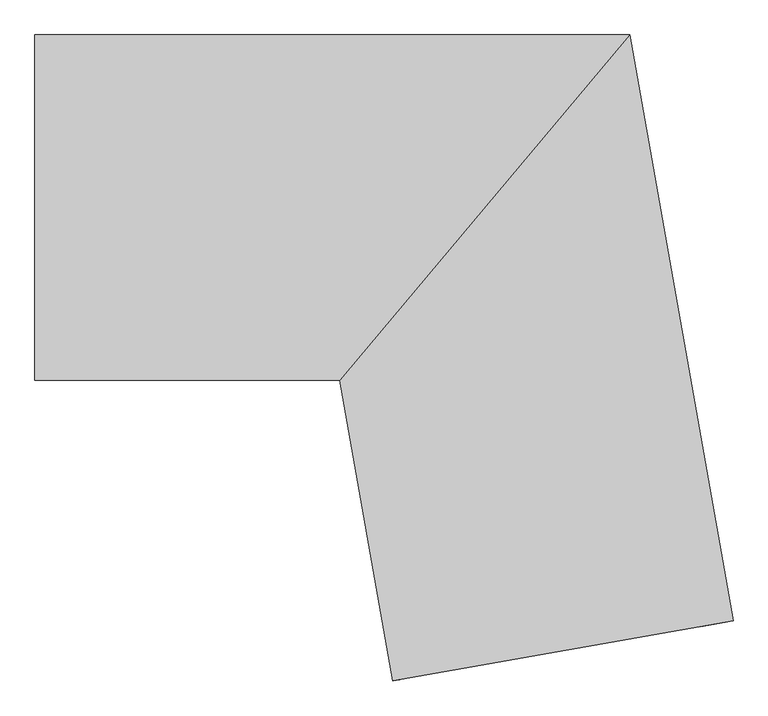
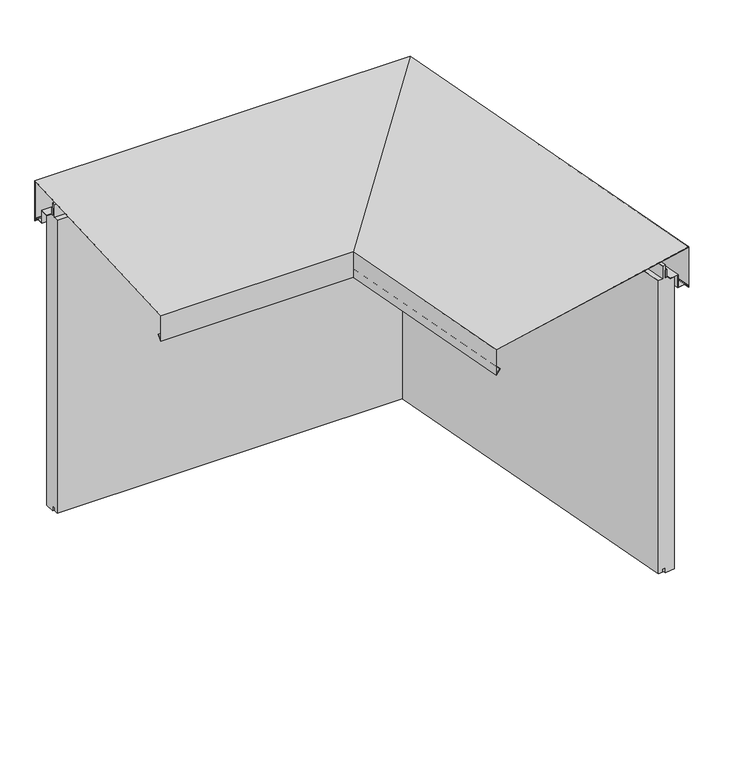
"""IFC4 building model written with IfcOpenShell, lengths in millimetres: plate geometry, Trimo_Qbiss Screen_L Corner Panel-HORIZONTAL : HR - B."""

import ifcopenshell
import ifcopenshell.guid

model = None  # the IFC model being written
_history = None  # IfcOwnerHistory: only IFC2X3 demands one
_inside = {}  # id of a spatial element -> (the spatial element, [elements in it])
_under = {}  # id of a project, library or spatial element -> (it, [spatial elements below it])
_declared = {}  # id of a project -> (the project, [libraries it declares])
_typed = {}  # id of a type object -> (the type object, [elements of that type])
_made_of = {}  # id of a material, layer set ... -> (it, [elements and type objects made of it])


def new_model(schema):
    """Start an empty IFC model of exactly this schema.

    Asked for "IFC4X3", IfcOpenShell would pick the latest addendum, in which some entities
    have other attributes; the version numbers below select the first issue.
    IFC2X3 requires an IfcOwnerHistory on every rooted entity: one is made here for all.
    """
    global model, _history
    if schema == "IFC4X3":
        model = ifcopenshell.file(schema_version=(4, 3, 0, 0))
    else:
        model = ifcopenshell.file(schema=schema)
    _inside.clear()
    _under.clear()
    _declared.clear()
    _typed.clear()
    _made_of.clear()
    _history = None
    if model.schema == "IFC2X3":
        org = make("IfcOrganization", Name="unknown")
        user = make(
            "IfcPersonAndOrganization",
            ThePerson=make("IfcPerson", FamilyName="unknown"),
            TheOrganization=org,
        )
        app = make(
            "IfcApplication",
            ApplicationDeveloper=org,
            Version="unknown",
            ApplicationFullName="unknown",
            ApplicationIdentifier="unknown",
        )
        _history = make(
            "IfcOwnerHistory",
            OwningUser=user,
            OwningApplication=app,
            ChangeAction="ADDED",
            CreationDate=0,
        )
    return model


def make(cls, **values):
    """One entity of the class cls with the attributes given. An attribute that is None is left unset."""
    return model.create_entity(
        cls, **{name: value for name, value in values.items() if value is not None}
    )


def rooted(cls, **values):
    """An entity with a GlobalId (a new one), such as an element, a storey or a relation."""
    return make(cls, GlobalId=ifcopenshell.guid.new(), OwnerHistory=_history, **values)


def si_unit(unit_type, name, prefix=None):
    """IfcSIUnit, for example si_unit("LENGTHUNIT", "METRE", prefix="MILLI")."""
    return make("IfcSIUnit", UnitType=unit_type, Prefix=prefix, Name=name)


def assignment(units):
    """IfcUnitAssignment: the units of a project."""
    return None if units is None else make("IfcUnitAssignment", Units=units)


def point(xyz):
    """IfcCartesianPoint."""
    return None if xyz is None else make("IfcCartesianPoint", Coordinates=xyz)


def direction(xyz):
    """IfcDirection."""
    return None if xyz is None else make("IfcDirection", DirectionRatios=xyz)


def frame(location, z_axis=None, x_axis=None):
    """IfcAxis2Placement3D, a coordinate frame: its origin and axes. An axis left out is left unset."""
    return make(
        "IfcAxis2Placement3D",
        Location=point(location),
        Axis=direction(z_axis),
        RefDirection=direction(x_axis),
    )


def origin():
    """The frame at (0, 0, 0) with its axes left unset."""
    return frame((0.0, 0.0, 0.0))


def place(relative_to, where):
    """IfcLocalPlacement: puts the frame where relative to a parent placement (None: the world)."""
    return make(
        "IfcLocalPlacement", PlacementRelTo=relative_to, RelativePlacement=where
    )


def context(
    kind, dimensions, precision=None, world=None, true_north=None, identifier=None
):
    """IfcGeometricRepresentationContext, for example the 3D "Model" context."""
    return make(
        "IfcGeometricRepresentationContext",
        ContextIdentifier=identifier,
        ContextType=kind,
        CoordinateSpaceDimension=dimensions,
        Precision=precision,
        WorldCoordinateSystem=world,
        TrueNorth=true_north,
    )


def project(units=None, contexts=None):
    """IfcProject with its units and contexts."""
    return rooted(
        "IfcProject",
        Name="project",
        RepresentationContexts=contexts,
        UnitsInContext=assignment(units),
    )


def spatial(cls, under=None, at=None, **own):
    """A site, building, storey or space (cls), placed at a placement, below another one or the project."""
    s = rooted(cls, ObjectPlacement=at, **own)
    if under is not None:
        _under.setdefault(under.id(), (under, []))[1].append(s)
    return s


def polyline(points):
    """IfcPolyline through the points."""
    return make("IfcPolyline", Points=[point(p) for p in points])


def outline(outer, holes=None, kind="AREA"):
    """IfcArbitraryClosedProfileDef: a profile drawn as a closed curve; with holes, ...WithVoids."""
    if holes is None:
        return make("IfcArbitraryClosedProfileDef", ProfileType=kind, OuterCurve=outer)
    return make(
        "IfcArbitraryProfileDefWithVoids",
        ProfileType=kind,
        OuterCurve=outer,
        InnerCurves=holes,
    )


def extrude(swept, where, along, depth):
    """IfcExtrudedAreaSolid: the profile swept, set in the frame where, extruded along a direction by depth."""
    return make(
        "IfcExtrudedAreaSolid",
        SweptArea=swept,
        Position=where,
        ExtrudedDirection=direction(along),
        Depth=depth,
    )


def faces_of(points, faces, orient=None, outer=None):
    """IfcFace entities. A face is a list of loops; a loop is a list of indices into points, from 0.

    orient and outer hold one flag for each loop. By default every Orientation is true, the
    first loop of a face is its IfcFaceOuterBound and the others are IfcFaceBound.
    """
    made = []
    for i, loops in enumerate(faces):
        bounds = []
        for j, loop in enumerate(loops):
            is_outer = j == 0 if outer is None else outer[i][j]
            bounds.append(
                make(
                    "IfcFaceOuterBound" if is_outer else "IfcFaceBound",
                    Bound=make("IfcPolyLoop", Polygon=[points[k] for k in loop]),
                    Orientation=True if orient is None else orient[i][j],
                )
            )
        made.append(make("IfcFace", Bounds=bounds))
    return made


def faceted_brep(points, faces, orient=None, outer=None, voids=None):
    """IfcFacetedBrep: a solid bounded by flat faces; with voids (closed shells), ...WithVoids."""
    shared = [point(p) for p in points]
    hull = make("IfcClosedShell", CfsFaces=faces_of(shared, faces, orient, outer))
    if voids is None:
        return make("IfcFacetedBrep", Outer=hull)
    return make(
        "IfcFacetedBrepWithVoids",
        Outer=hull,
        Voids=[
            make(cls, CfsFaces=faces_of(shared, fs, o, b)) for cls, fs, o, b in voids
        ],
    )


def shape(context_of_items, identifier, shape_type, items):
    """IfcShapeRepresentation: the items that make up one representation, for example the "Body"."""
    return make(
        "IfcShapeRepresentation",
        ContextOfItems=context_of_items,
        RepresentationIdentifier=identifier,
        RepresentationType=shape_type,
        Items=items,
    )


def source(mapping_origin, context_of_items, identifier, shape_type, items):
    """IfcRepresentationMap: a shape defined once, which mapped items show again and again."""
    return make(
        "IfcRepresentationMap",
        MappingOrigin=mapping_origin,
        MappedRepresentation=shape(context_of_items, identifier, shape_type, items),
    )


def transform(
    local_origin,
    x_axis=None,
    y_axis=None,
    z_axis=None,
    scale=None,
    scale2=None,
    scale3=None,
    uniform=True,
):
    """IfcCartesianTransformationOperator3D, or its non-uniform kind. x_axis, y_axis, z_axis: its Axis1, 2, 3."""
    if uniform:
        return make(
            "IfcCartesianTransformationOperator3D",
            Axis1=direction(x_axis),
            Axis2=direction(y_axis),
            LocalOrigin=point(local_origin),
            Scale=scale,
            Axis3=direction(z_axis),
        )
    return make(
        "IfcCartesianTransformationOperator3DnonUniform",
        Axis1=direction(x_axis),
        Axis2=direction(y_axis),
        LocalOrigin=point(local_origin),
        Scale=scale,
        Axis3=direction(z_axis),
        Scale2=scale2,
        Scale3=scale3,
    )


def mapped(mapping_source, mapping_target):
    """IfcMappedItem: shows the shape of a source again, moved by a transform."""
    return make(
        "IfcMappedItem", MappingSource=mapping_source, MappingTarget=mapping_target
    )


def made_of(thing, what):
    """Note that an element or type object is made of a material, layer set ...; save() writes the relation."""
    if what is not None:
        _made_of.setdefault(what.id(), (what, []))[1].append(thing)
    return thing


def element(
    cls,
    number,
    at=None,
    inside=None,
    cuts=None,
    type_object=None,
    material=None,
    context=None,
    identifier="Body",
    shape_type=None,
    held_by="IfcProductDefinitionShape",
    body=None,
    shapes=None,
    **own,
):
    """One element of the class cls, such as IfcWall. Its Tag is "e" and its number.

    at: its placement. inside: the storey or other place that contains it. cuts: it is an
    opening in that element (IfcRelVoidsElement). A single representation is given by context,
    identifier, shape_type and body (its items); several are given by shapes. held_by: the class
    of the entity that holds the representations. save() writes the other relations.
    """
    e = rooted(cls, Tag="e%d" % number, ObjectPlacement=at, **own)
    if body is not None:
        shapes = [shape(context, identifier, shape_type, body)]
    if shapes is not None:
        e.Representation = make(held_by, Representations=shapes)
    if inside is not None:
        _inside.setdefault(inside.id(), (inside, []))[1].append(e)
    if cuts is not None:
        rooted(
            "IfcRelVoidsElement", RelatingBuildingElement=cuts, RelatedOpeningElement=e
        )
    if type_object is not None:
        _typed.setdefault(type_object.id(), (type_object, []))[1].append(e)
    return made_of(e, material)


def aggregate(whole, parts):
    """IfcRelAggregates: a whole, such as a stair, and the parts it consists of."""
    return rooted("IfcRelAggregates", RelatingObject=whole, RelatedObjects=parts)


def save(model, path):
    """Write the relations noted so far, then the file.

    IfcRelAggregates (storeys below a building ...), IfcRelContainedInSpatialStructure (elements
    in a storey), IfcRelDefinesByType, IfcRelAssociatesMaterial and IfcRelDeclares: one each for
    every whole, place, type object, material and project.
    """
    for whole, parts in _under.values():
        aggregate(whole, parts)
    for where, things in _inside.values():
        rooted(
            "IfcRelContainedInSpatialStructure",
            RelatedElements=things,
            RelatingStructure=where,
        )
    for kind, things in _typed.values():
        rooted("IfcRelDefinesByType", RelatedObjects=things, RelatingType=kind)
    for what, things in _made_of.values():
        rooted("IfcRelAssociatesMaterial", RelatedObjects=things, RelatingMaterial=what)
    for by, libraries in _declared.values():
        rooted("IfcRelDeclares", RelatingContext=by, RelatedDefinitions=libraries)
    model.write(path)


def plate_30a3f86a(model_context):
    return source(origin(), model_context, "Body", "SolidModel", [
        faceted_brep([(576.9021889, 134.2, 818.9715729), (576.9021889, 134.2, 934.1569759), (-464.2950184, 134.2, 934.1569759), (-464.2950184, 134.2, 818.9715729), (70.5894715, -469.2, 905.4165497), (-464.2950184, -469.2, 905.4165497), (70.5894715, -469.2, 833.1070922), (-464.2950184, -469.2, 833.1070922), (80.2921876, -457.6367532, 844.670339), (-464.2950184, -457.6367532, 844.670339), (80.766854, -457.0710678, 844.1046536), (-464.2950184, -457.0710678, 844.1046536), (69.9181918, -470.0, 831.1757214), (-464.2950184, -470.0, 831.1757214), (69.9181918, -470.0, 906.1757214), (-464.2950184, -470.0, 906.1757214), (577.5734687, 135.0, 935.0), (-464.2950184, 135.0, 935.0), (577.5734687, 135.0, 817.040202), (-464.2950184, 135.0, 817.040202), (567.5211398, 123.020101, 829.020101), (-464.2950184, 123.020101, 829.020101), (567.9958063, 123.5857864, 829.5857864), (-464.2950184, 123.5857864, 829.5857864), (757.7041866, -891.1790822, 818.9715729), (757.7041866, -891.1790822, 934.1569759), (163.4711884, -995.9583927, 905.4165497), (163.4711884, -995.9583927, 833.1070922), (174.8587635, -993.9504559, 844.670339), (175.4158549, -993.8522257, 844.1046536), (162.6833422, -996.0973112, 831.1757214), (162.6833422, -996.0973112, 906.1757214), (758.4920328, -891.0401637, 935.0), (758.4920328, -891.0401637, 817.040202), (746.6941354, -893.1204513, 829.020101), (747.2512268, -893.0222211, 829.5857864)], [[[0, 1, 2, 3]], [[1, 4, 5, 2]], [[4, 6, 7, 5]], [[6, 8, 9, 7]], [[8, 10, 11, 9]], [[10, 12, 13, 11]], [[12, 14, 15, 13]], [[14, 16, 17, 15]], [[16, 18, 19, 17]], [[18, 20, 21, 19]], [[20, 22, 23, 21]], [[22, 0, 3, 23]], [[1, 0, 24, 25]], [[4, 1, 25, 26]], [[6, 4, 26, 27]], [[8, 6, 27, 28]], [[10, 8, 28, 29]], [[12, 10, 29, 30]], [[14, 12, 30, 31]], [[16, 14, 31, 32]], [[18, 16, 32, 33]], [[20, 18, 33, 34]], [[22, 20, 34, 35]], [[0, 22, 35, 24]], [[3, 2, 5, 7, 9, 11, 13, 15, 17, 19, 21, 23]], [[25, 24, 35, 34, 33, 32, 31, 30, 29, 28, 27, 26]]]),
        faceted_brep([(576.0630893, 133.2, 823.9313708), (576.0630893, 133.2, 822.8), (-464.2950184, 133.2, 822.8), (-464.2950184, 133.2, 823.9313708), (569.1824723, 125.0, 831.0), (-464.2950184, 125.0, 831.0), (748.6439553, -892.7766455, 831.0), (725.0085692, -896.9442017, 831.0), (549.0440812, 101.0, 831.0), (-464.2950184, 101.0, 831.0), (549.0440812, 101.0, 868.0), (-464.2950184, 101.0, 868.0), (725.0085692, -896.9442017, 868.0), (701.3731831, -901.111758, 868.0), (528.90569, 77.0, 868.0), (-464.2950184, 77.0, 868.0), (528.90569, 77.0, 868.8), (-464.2950184, 77.0, 868.8), (701.3731831, -901.111758, 868.8), (725.7964154, -896.8052832, 868.8), (549.7153609, 101.8, 868.8), (-464.2950184, 101.8, 868.8), (549.7153609, 101.8, 831.8), (-464.2950184, 101.8, 831.8), (725.7964154, -896.8052832, 831.8), (748.9702919, -892.7191035, 831.8), (569.4605255, 125.3313708, 831.8), (-464.2950184, 125.3313708, 831.8), (756.7193788, -891.3527304, 823.9313708), (756.7193788, -891.3527304, 822.8)], [[[0, 1, 2, 3]], [[1, 4, 5, 2]], [[5, 4, 6, 7, 8, 9]], [[8, 10, 11, 9]], [[11, 10, 12, 13, 14, 15]], [[14, 16, 17, 15]], [[17, 16, 18, 19, 20, 21]], [[20, 22, 23, 21]], [[23, 22, 24, 25, 26, 27]], [[26, 0, 3, 27]], [[1, 0, 28, 29]], [[4, 1, 29, 6]], [[10, 8, 7, 12]], [[16, 14, 13, 18]], [[22, 20, 19, 24]], [[0, 26, 25, 28]], [[3, 2, 5, 9, 11, 15, 17, 21, 23, 27]], [[7, 6, 29, 28, 25, 24, 19, 18, 13, 12]]]),
        extrude(outline(polyline([(-451.7950184, 71.0), (-451.7950184, 76.0), (528.0665904, 76.0), (698.2177732, -888.9753093), (693.2937344, -889.8435502), (523.8710923, 71.0), (-451.7950184, 71.0)])), frame((0.0, 0.0, 868.0), z_axis=(0.0, 0.0, 1.0), x_axis=(1.0, 0.0, 0.0)), (0.0, 0.0, 1.0), 21.0),
        faceted_brep([(-451.7950184, 71.0, 867.0), (-451.7950184, 100.0, 867.0), (-451.7950184, 100.0, 0.0), (-451.7950184, 72.0, 0.0), (-451.7950184, 72.0, 15.5), (-451.7950184, 62.0, 15.5), (-451.7950184, 62.0, 7.0), (-451.7950184, 50.0, 7.0), (-451.7950184, 50.0, 867.0), (-451.7950184, 63.0, 867.0), (-451.7950184, 63.0, 904.5), (-451.7950184, 71.0, 904.5), (523.8710923, 71.0, 867.0), (693.2937344, -889.8435502, 867.0), (721.8531592, -884.807753, 867.0), (548.2049816, 100.0, 867.0), (548.2049816, 100.0, 0.0), (721.8531592, -884.807753, 0.0), (694.2785421, -889.669902, 0.0), (524.7101919, 72.0, 0.0), (524.7101919, 72.0, 15.5), (694.2785421, -889.669902, 15.5), (684.4304646, -891.4063838, 15.5), (516.3191956, 62.0, 15.5), (516.3191956, 62.0, 7.0), (684.4304646, -891.4063838, 7.0), (672.6127716, -893.4901619, 7.0), (506.25, 50.0, 7.0), (506.25, 50.0, 867.0), (672.6127716, -893.4901619, 867.0), (685.4152724, -891.2327356, 867.0), (517.1582952, 63.0, 867.0), (517.1582952, 63.0, 904.5), (685.4152724, -891.2327356, 904.5), (693.2937344, -889.8435502, 904.5), (523.8710923, 71.0, 904.5)], [[[0, 1, 2, 3, 4, 5, 6, 7, 8, 9, 10, 11]], [[1, 0, 12, 13, 14, 15]], [[2, 1, 15, 16]], [[3, 2, 16, 17, 18, 19]], [[4, 3, 19, 20]], [[5, 4, 20, 21, 22, 23]], [[6, 5, 23, 24]], [[7, 6, 24, 25, 26, 27]], [[8, 7, 27, 28]], [[9, 8, 28, 29, 30, 31]], [[10, 9, 31, 32]], [[11, 10, 32, 33, 34, 35]], [[0, 11, 35, 12]], [[13, 34, 33, 30, 29, 26, 25, 22, 21, 18, 17, 14]], [[16, 15, 14, 17]], [[20, 19, 18, 21]], [[24, 23, 22, 25]], [[28, 27, 26, 29]], [[32, 31, 30, 33]], [[12, 35, 34, 13]]]),
    ])


if __name__ == "__main__":
    model = new_model("IFC4")
    model_context = context("Model", 3, world=origin())
    ifc_project = project(units=[si_unit("LENGTHUNIT", "METRE", prefix="MILLI")], contexts=[model_context])
    site = spatial("IfcSite", under=ifc_project)
    building = spatial("IfcBuilding", under=site)
    placement = place(None, origin())
    plate_shape = plate_30a3f86a(model_context)
    element("IfcPlate", 1, ObjectType="Trimo_Qbiss Screen_L Corner Panel-HORIZONTAL : HR - B", at=placement, inside=building, context=model_context, shape_type="MappedRepresentation", body=[
        mapped(plate_shape, transform((0.0, 0.0, 0.0), x_axis=(1.0, 0.0, 0.0), y_axis=(0.0, 1.0, 0.0), z_axis=(0.0, 0.0, 1.0))),
    ])
    save(model, "model.ifc")
